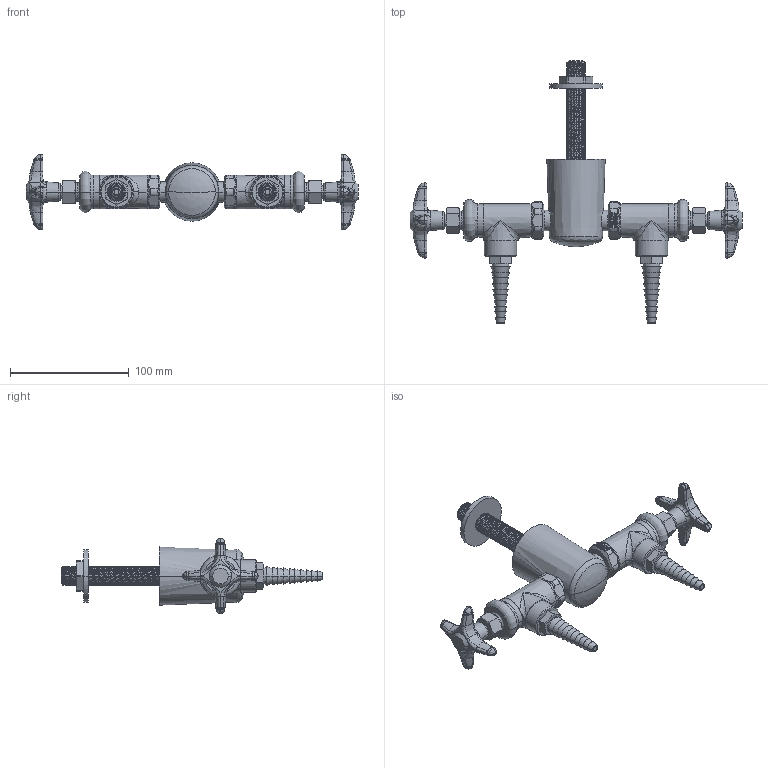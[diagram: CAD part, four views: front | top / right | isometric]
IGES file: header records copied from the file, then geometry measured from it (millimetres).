
Start section:  PTC IGES file: LGF3-A11L-25.igs
Global section: file name: LGF3-A11L-25.igs; native system: Creo Parametric by PTC Inc.; preprocessor: 2014500; author: usch_engrender; organization: Unknown; date: 20160112.111236; units: inch
Bounding box: 279.25 x 220.37 x 63.42 mm (x, y, z)
Volume: 257115.9 mm3; surface area: 81681 mm2
Topology: 1 solids, 12 shells, 1488 faces, 3555 edges, 2133 vertices
Faces by surface type: bspline 809, revolution 679
